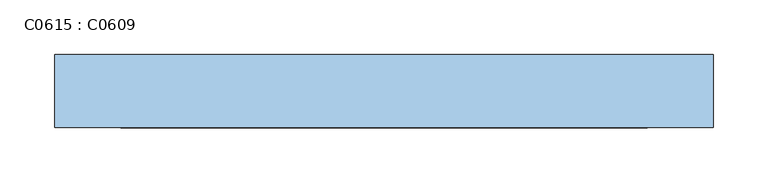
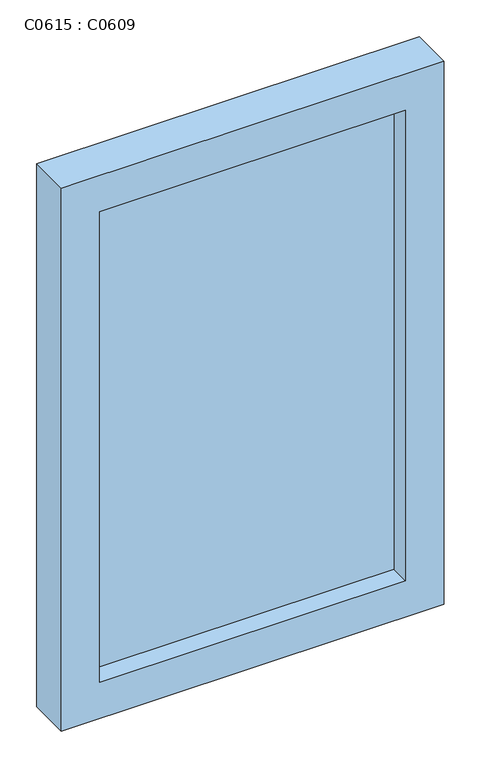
"""IFC4 building model written with IfcOpenShell, lengths in millimetres: window geometry, C0615 : C0609."""

from ifc_helpers import new_model, si_unit, frame, origin, place, context, project, spatial, polyline, outline, extrude, source, transform, mapped, element, save


def c0615_c0609_9743c050(model_context):
    return source(origin(), model_context, "Body", "SweptSolid", [
        extrude(outline(polyline([(240.0, -1.3674018), (-240.0, -1.3674018), (-240.0, 26.348844), (240.0, 26.348844), (240.0, -1.3674018)])), frame((0.0, 0.0, 1510.0), z_axis=(0.0, 0.0, 1.0), x_axis=(1.0, 0.0, 0.0)), (0.0, 0.0, 1.0), 780.0),
        extrude(outline(polyline([(2350.0, 300.0), (2350.0, -300.0), (1450.0, -300.0), (1450.0, 300.0), (2350.0, 300.0)]), holes=[polyline([(1510.0, 240.0), (1510.0, -240.0), (2290.0, -240.0), (2290.0, 240.0), (1510.0, 240.0)])]), frame((0.0, -33.3333333, 0.0), z_axis=(0.0, 1.0, 0.0), x_axis=(0.0, 0.0, 1.0)), (0.0, 0.0, 1.0), 66.6666667),
    ])


if __name__ == "__main__":
    model = new_model("IFC4")
    model_context = context("Model", 3, world=origin())
    ifc_project = project(units=[si_unit("LENGTHUNIT", "METRE", prefix="MILLI")], contexts=[model_context])
    site = spatial("IfcSite", under=ifc_project)
    building = spatial("IfcBuilding", under=site)
    placement = place(None, origin())
    c0615_c0609_shape = c0615_c0609_9743c050(model_context)
    element("IfcWindow", 1, ObjectType="C0615 : C0609", at=placement, inside=building, context=model_context, shape_type="MappedRepresentation", body=[
        mapped(c0615_c0609_shape, transform((0.0, 0.0, 0.0), x_axis=(1.0, 0.0, 0.0), y_axis=(0.0, 1.0, 0.0), z_axis=(0.0, 0.0, 1.0))),
    ])
    save(model, "model.ifc")
